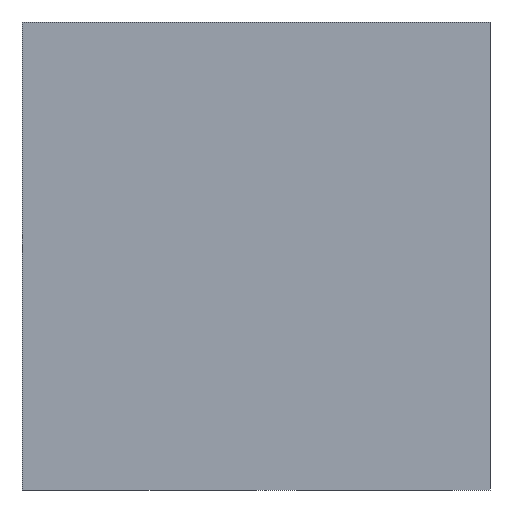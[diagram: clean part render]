
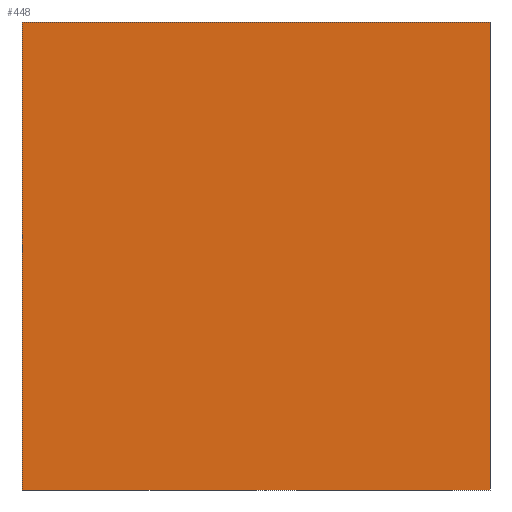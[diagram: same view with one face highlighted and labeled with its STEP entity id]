
A CAD part, left-side view. The second image highlights one B-rep face of the part: STEP entity #448.
In plain terms, the highlighted planar face has unit normal (-1, 0, 0).
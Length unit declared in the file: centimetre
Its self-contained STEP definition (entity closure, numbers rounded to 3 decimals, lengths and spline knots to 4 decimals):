
#82 = ORIENTED_EDGE ( 'NONE', *, *, #199, .T. ) ;
#116 = CARTESIAN_POINT ( 'NONE',  ( 0., 1000., 1000. ) ) ;
#121 = CARTESIAN_POINT ( 'NONE',  ( 0., 0., 0. ) ) ;
#124 = LINE ( 'NONE', #635, #197 ) ;
#125 = DIRECTION ( 'NONE',  ( 0., 0., -1. ) ) ;
#128 = DIRECTION ( 'NONE',  ( 0., -1., 0. ) ) ;
#129 = VERTEX_POINT ( 'NONE', #234 ) ;
#132 = CARTESIAN_POINT ( 'NONE',  ( 0., 1000., 0. ) ) ;
#133 = VERTEX_POINT ( 'NONE', #279 ) ;
#140 = LINE ( 'NONE', #357, #181 ) ;
#145 = CARTESIAN_POINT ( 'NONE',  ( 0., 1000., 1000. ) ) ;
#181 = VECTOR ( 'NONE', #303, 100. ) ;
#191 = EDGE_CURVE ( 'NONE', #460, #133, #641, .T. ) ;
#197 = VECTOR ( 'NONE', #125, 100. ) ;
#199 = EDGE_CURVE ( 'NONE', #129, #203, #389, .T. ) ;
#203 = VERTEX_POINT ( 'NONE', #121 ) ;
#234 = CARTESIAN_POINT ( 'NONE',  ( 0., 1000., 0. ) ) ;
#279 = CARTESIAN_POINT ( 'NONE',  ( 0., 0., 1000. ) ) ;
#293 = VECTOR ( 'NONE', #128, 100. ) ;
#301 = DIRECTION ( 'NONE',  ( 0., 0., -1. ) ) ;
#303 = DIRECTION ( 'NONE',  ( 0., 0., -1. ) ) ;
#307 = EDGE_CURVE ( 'NONE', #460, #129, #140, .T. ) ;
#318 = CARTESIAN_POINT ( 'NONE',  ( 0., 1000., 1000. ) ) ;
#357 = CARTESIAN_POINT ( 'NONE',  ( 0., 1000., 1000. ) ) ;
#389 = LINE ( 'NONE', #132, #643 ) ;
#401 = ORIENTED_EDGE ( 'NONE', *, *, #307, .T. ) ;
#402 = FACE_OUTER_BOUND ( 'NONE', #480, .T. ) ;
#448 = ADVANCED_FACE ( 'NONE', ( #402 ), #604, .F. ) ;
#460 = VERTEX_POINT ( 'NONE', #318 ) ;
#477 = DIRECTION ( 'NONE',  ( 0., -1., 0. ) ) ;
#480 = EDGE_LOOP ( 'NONE', ( #82, #506, #575, #401 ) ) ;
#506 = ORIENTED_EDGE ( 'NONE', *, *, #592, .F. ) ;
#550 = AXIS2_PLACEMENT_3D ( 'NONE', #145, #556, #301 ) ;
#556 = DIRECTION ( 'NONE',  ( 1., 0., 0. ) ) ;
#575 = ORIENTED_EDGE ( 'NONE', *, *, #191, .F. ) ;
#592 = EDGE_CURVE ( 'NONE', #133, #203, #124, .T. ) ;
#604 = PLANE ( 'NONE',  #550 ) ;
#635 = CARTESIAN_POINT ( 'NONE',  ( 0., 0., 1000. ) ) ;
#641 = LINE ( 'NONE', #116, #293 ) ;
#643 = VECTOR ( 'NONE', #477, 100. ) ;
